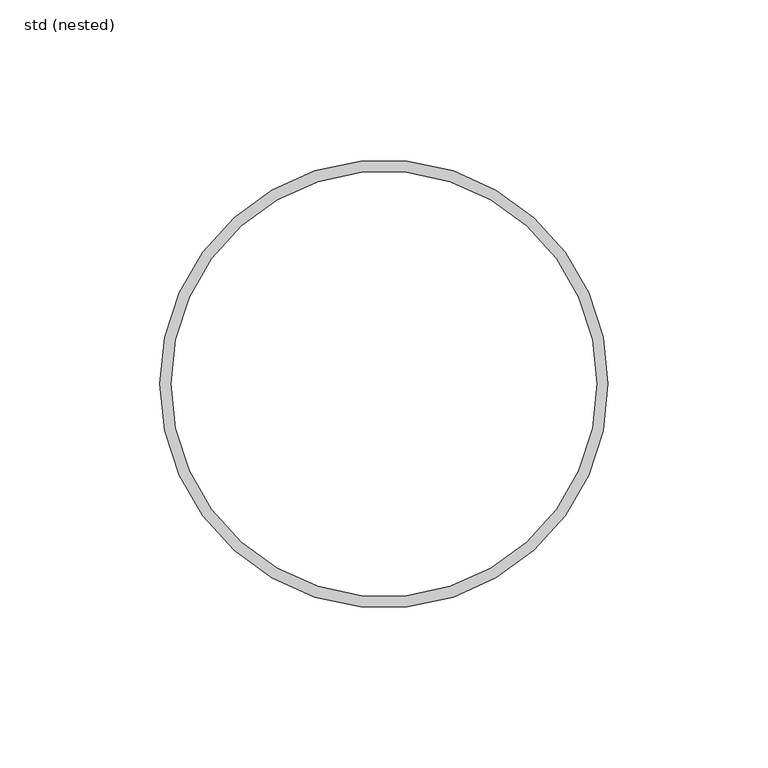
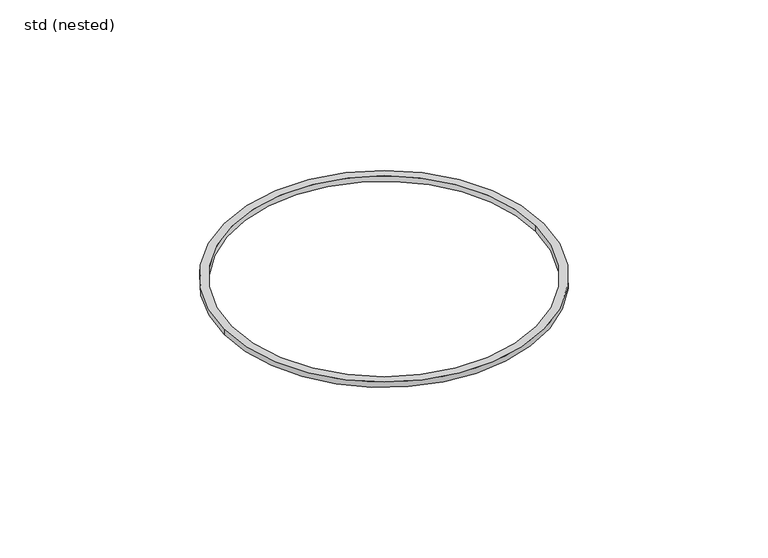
"""IFC4 building model written with IfcOpenShell, lengths in millimetres: pipe fitting geometry, ZZZ_do not use_PIF_GEN_WPB_GM-X (compound) pipe seal_ACO : std (nested)."""

from ifc_helpers import new_model, si_unit, point, frame, origin, origin_2d, place, context, project, spatial, circle_curve, trimmed, segment, composite_curve, outline, extrude, source, transform, mapped, element, save


def std_nested_b22cb0b6(model_context):
    return source(origin(), model_context, "Body", "SweptSolid", [
        extrude(outline(composite_curve([segment(trimmed(circle_curve(origin_2d(), 70.0), [point((70.0, 0.0))], [point((-70.0, 0.0))], False, "CARTESIAN"), True, "CONTINUOUS"), segment(trimmed(circle_curve(origin_2d(), 70.0), [point((-70.0, 0.0))], [point((70.0, 0.0))], False, "CARTESIAN"), True, "CONTINUOUS")], self_intersect=False), holes=[composite_curve([segment(trimmed(circle_curve(origin_2d(), 66.5), [point((66.5, 0.0))], [point((-66.5, 0.0))], True, "CARTESIAN"), True, "CONTINUOUS"), segment(trimmed(circle_curve(origin_2d(), 66.5), [point((-66.5, 0.0))], [point((66.5, 0.0))], True, "CARTESIAN"), True, "CONTINUOUS")], self_intersect=False)]), frame((0.0, 0.0, -77.5), z_axis=(0.0, 0.0, 1.0), x_axis=(1.0, 0.0, 0.0)), (0.0, 0.0, 1.0), 2.5),
    ])


if __name__ == "__main__":
    model = new_model("IFC4")
    model_context = context("Model", 3, world=origin())
    ifc_project = project(units=[si_unit("LENGTHUNIT", "METRE", prefix="MILLI")], contexts=[model_context])
    site = spatial("IfcSite", under=ifc_project)
    building = spatial("IfcBuilding", under=site)
    placement = place(None, origin())
    std_nested_shape = std_nested_b22cb0b6(model_context)
    element("IfcPipeFitting", 1, ObjectType="ZZZ_do not use_PIF_GEN_WPB_GM-X (compound) pipe seal_ACO : std (nested)", at=placement, inside=building, context=model_context, shape_type="MappedRepresentation", body=[
        mapped(std_nested_shape, transform((0.0, 0.0, 0.0), x_axis=(1.0, 0.0, 0.0), y_axis=(0.0, 1.0, 0.0), z_axis=(0.0, 0.0, 1.0))),
    ])
    save(model, "model.ifc")
